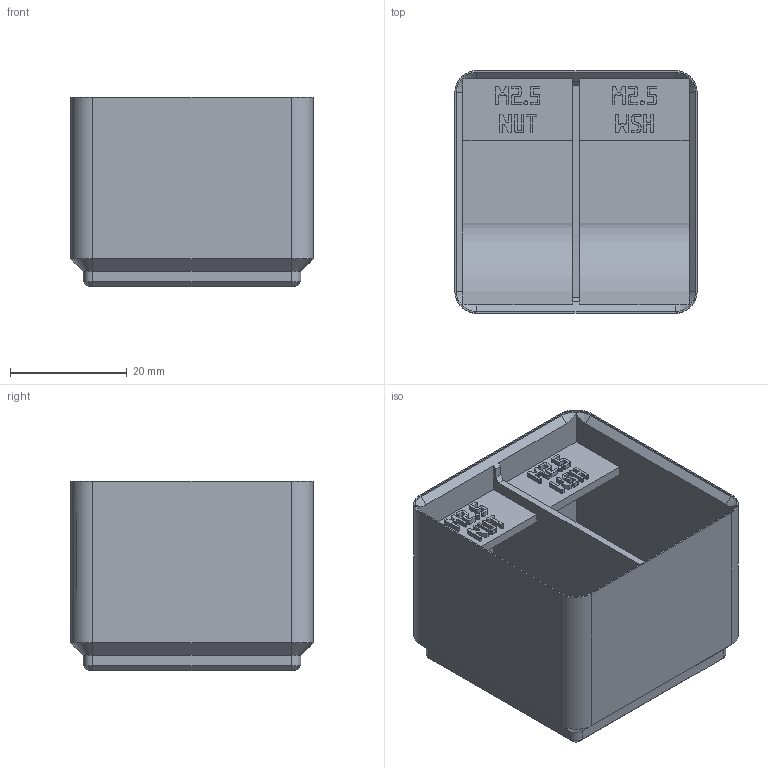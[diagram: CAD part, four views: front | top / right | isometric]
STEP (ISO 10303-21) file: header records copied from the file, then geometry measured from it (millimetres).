
FILE_DESCRIPTION(('Open CASCADE Model'),'2;1');
FILE_NAME('Open CASCADE Shape Model','2026-11-16T13:39:29',('Author'),( 'Open CASCADE'),'Open CASCADE STEP processor 8.0','build123d', 'Unknown');
FILE_SCHEMA(('AUTOMOTIVE_DESIGN { 1 0 10303 214 1 1 1 1 }'));
Products named in the file (1): SOLID
Bounding box: 41.5 x 41.5 x 32.4 mm (x, y, z)
Volume: 23921.3 mm3; surface area: 13494.2 mm2
Topology: 1 solids, 1 shells, 1438 faces, 4225 edges, 2806 vertices
Faces by surface type: plane 1412, cylinder 14, cone 12
Entity records: 98896 total; most frequent: CARTESIAN_POINT 19956, DIRECTION 12679, LINE 9701, VECTOR 9701, ORIENTED_EDGE 8450, PCURVE 8450, DEFINITIONAL_REPRESENTATION 8450, EDGE_CURVE 4225
